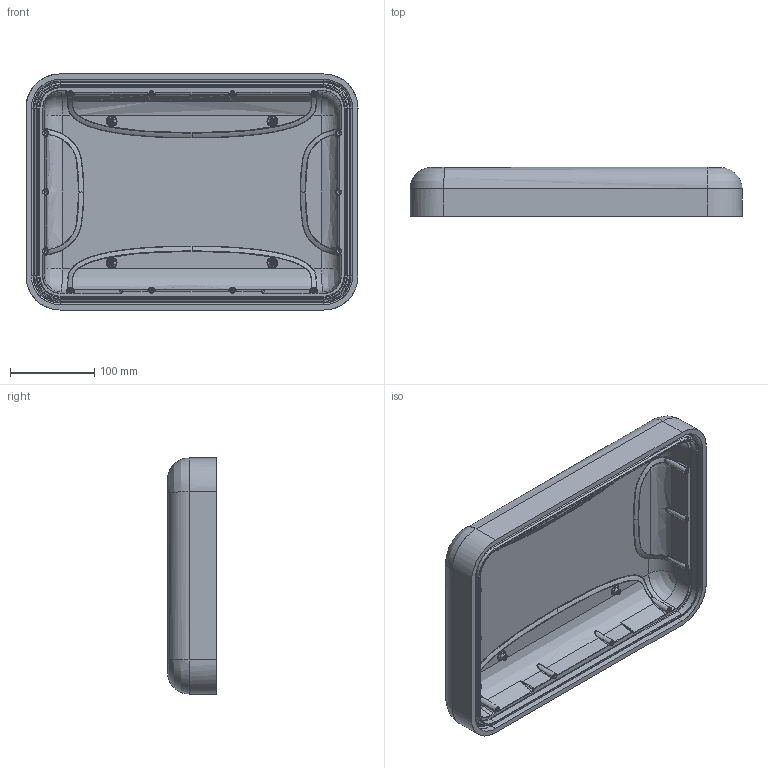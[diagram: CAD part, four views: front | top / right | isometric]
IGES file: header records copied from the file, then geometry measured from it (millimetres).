
Start section: SolidWorks IGES file using analytic representation for surfaces
Global section: file name: Z:\Share\Sylvain Charria\Inner Surface Files-20200318T143519Z-001\Inner Surface Files\915\915_R1_Top_INNER_SURFACE_IGES.IGS; native system: SolidWorks 2018; preprocessor: SolidWorks 2018; author: scharria; date: 200318.143520; units: inch
Bounding box: 393.6 x 57.84 x 279.88 mm (x, y, z)
Surface area: 347519.9 mm2 (no closed solid volume)
Topology: 0 solids, 0 shells, 913 faces, 10676 edges, 10664 vertices
Faces by surface type: bspline 749, revolution 164
